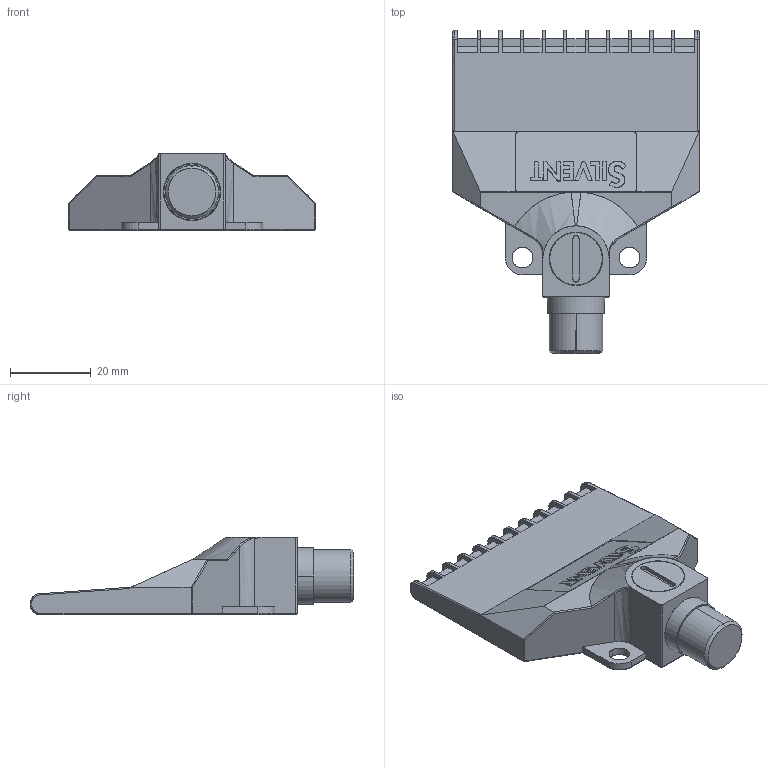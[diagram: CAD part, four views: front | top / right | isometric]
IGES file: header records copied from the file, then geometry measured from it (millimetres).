
Start section: SolidWorks IGES FILE using analytic representation for surfaces
Global section: file name: G:\Silvent\Ritningar\Övrigt\IGES\Silvent 973F.IGS; native system: SolidWorks 2003 by SolidWorks Corporation; preprocessor: Version 5.3; author: Ulf; date: 030923.152243; units: millimetre
Bounding box: 61 x 80 x 19.1 mm (x, y, z)
Surface area: 9776.2 mm2 (no closed solid volume)
Topology: 0 solids, 0 shells, 316 faces, 2770 edges, 2768 vertices
Faces by surface type: bspline 178, revolution 138
